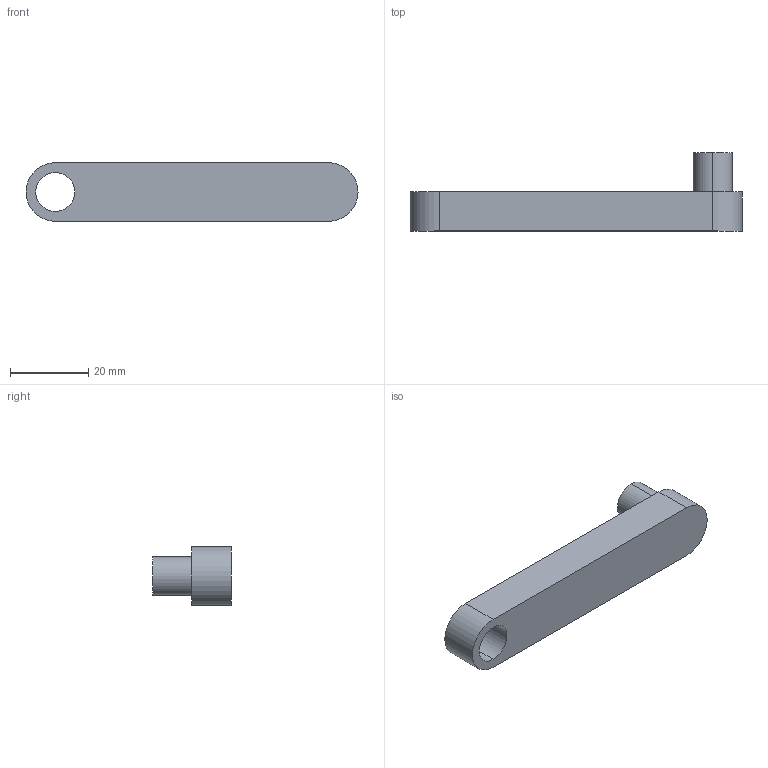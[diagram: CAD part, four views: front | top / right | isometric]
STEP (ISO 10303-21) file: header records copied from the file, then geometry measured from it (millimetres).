
FILE_DESCRIPTION (( 'STEP AP203' ), '1' );
FILE_NAME ('P-R_Domyœlna_sldprt.STEP', '2024-05-21T11:40:19', ( '' ), ( '' ), 'SwSTEP 2.0', 'SolidWorks 2024', '' );
FILE_SCHEMA (( 'CONFIG_CONTROL_DESIGN' ));
Length unit declared in the file: millimetre
Products named in the file (1): P-R_Domyślna_sldprt
Bounding box: 85 x 20 x 15 mm (x, y, z)
Volume: 12267.1 mm3; surface area: 4795.9 mm2
Topology: 1 solids, 1 shells, 11 faces, 24 edges, 16 vertices
Faces by surface type: cylinder 6, plane 5
Entity records: 391 total; most frequent: DIRECTION 60, CARTESIAN_POINT 52, ORIENTED_EDGE 48, EDGE_CURVE 24, AXIS2_PLACEMENT_3D 24, VERTEX_POINT 16, EDGE_LOOP 14, CIRCLE 12
